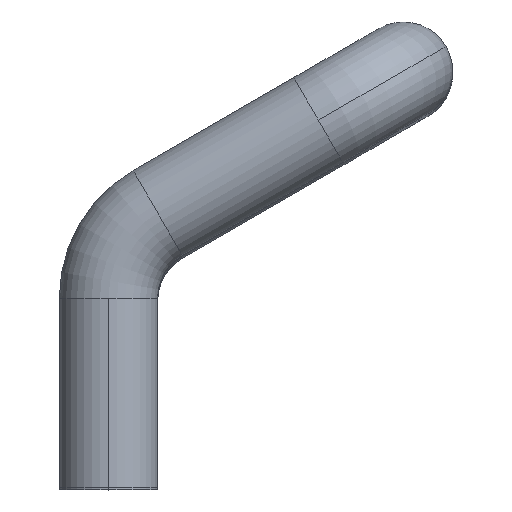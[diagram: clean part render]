
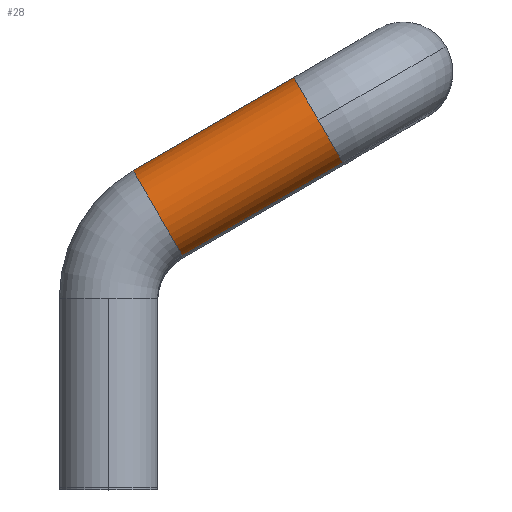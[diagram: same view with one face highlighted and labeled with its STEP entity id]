
A CAD part, top view. The second image highlights one B-rep face of the part: STEP entity #28.
In plain terms, the highlighted cylindrical face has radius 5 mm (diameter 10 mm), a partial arc.
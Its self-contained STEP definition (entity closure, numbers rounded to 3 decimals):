
#27 = CARTESIAN_POINT ( 'NONE',  ( 7.5, 23.557, 0. ) ) ;
#28 = ADVANCED_FACE ( 'NONE', ( #65 ), #346, .T. ) ;
#30 = VERTEX_POINT ( 'NONE', #88 ) ;
#32 = DIRECTION ( 'NONE',  ( 0.866, 0.5, 0. ) ) ;
#43 = CARTESIAN_POINT ( 'NONE',  ( 23.84, 32.99, 0. ) ) ;
#55 = CARTESIAN_POINT ( 'NONE',  ( 2.5, 32.217, 0. ) ) ;
#65 = FACE_OUTER_BOUND ( 'NONE', #602, .T. ) ;
#66 = DIRECTION ( 'NONE',  ( 0., 0., 1. ) ) ;
#88 = CARTESIAN_POINT ( 'NONE',  ( 18.84, 41.651, 0. ) ) ;
#98 = CIRCLE ( 'NONE', #584, 5. ) ;
#170 = CIRCLE ( 'NONE', #695, 5. ) ;
#181 = CARTESIAN_POINT ( 'NONE',  ( 7.5, 23.557, 0. ) ) ;
#185 = CIRCLE ( 'NONE', #509, 5. ) ;
#191 = VERTEX_POINT ( 'NONE', #43 ) ;
#269 = DIRECTION ( 'NONE',  ( 0.866, 0.5, 0. ) ) ;
#301 = CARTESIAN_POINT ( 'NONE',  ( 2.5, 32.217, 0. ) ) ;
#313 = EDGE_CURVE ( 'NONE', #545, #372, #185, .T. ) ;
#346 = CYLINDRICAL_SURFACE ( 'NONE', #624, 5. ) ;
#367 = ORIENTED_EDGE ( 'NONE', *, *, #878, .F. ) ;
#372 = VERTEX_POINT ( 'NONE', #27 ) ;
#389 = LINE ( 'NONE', #301, #587 ) ;
#403 = DIRECTION ( 'NONE',  ( 0.866, 0.5, 0. ) ) ;
#437 = EDGE_CURVE ( 'NONE', #814, #191, #170, .T. ) ;
#444 = ORIENTED_EDGE ( 'NONE', *, *, #588, .F. ) ;
#454 = VECTOR ( 'NONE', #403, 1000. ) ;
#461 = ORIENTED_EDGE ( 'NONE', *, *, #313, .T. ) ;
#498 = EDGE_CURVE ( 'NONE', #372, #191, #540, .T. ) ;
#509 = AXIS2_PLACEMENT_3D ( 'NONE', #558, #770, #66 ) ;
#518 = DIRECTION ( 'NONE',  ( 0.866, 0.5, 0. ) ) ;
#538 = DIRECTION ( 'NONE',  ( 0.866, 0.5, 0. ) ) ;
#540 = LINE ( 'NONE', #181, #454 ) ;
#545 = VERTEX_POINT ( 'NONE', #55 ) ;
#558 = CARTESIAN_POINT ( 'NONE',  ( 5., 27.887, 0. ) ) ;
#581 = CARTESIAN_POINT ( 'NONE',  ( 21.34, 37.321, 0. ) ) ;
#584 = AXIS2_PLACEMENT_3D ( 'NONE', #619, #269, #894 ) ;
#587 = VECTOR ( 'NONE', #538, 1000. ) ;
#588 = EDGE_CURVE ( 'NONE', #30, #814, #98, .T. ) ;
#602 = EDGE_LOOP ( 'NONE', ( #461, #872, #887, #444, #367 ) ) ;
#619 = CARTESIAN_POINT ( 'NONE',  ( 21.34, 37.321, 0. ) ) ;
#624 = AXIS2_PLACEMENT_3D ( 'NONE', #906, #518, #865 ) ;
#695 = AXIS2_PLACEMENT_3D ( 'NONE', #581, #32, #800 ) ;
#737 = CARTESIAN_POINT ( 'NONE',  ( 21.34, 37.321, 5. ) ) ;
#770 = DIRECTION ( 'NONE',  ( 0.866, 0.5, 0. ) ) ;
#800 = DIRECTION ( 'NONE',  ( 0., 0., 1. ) ) ;
#814 = VERTEX_POINT ( 'NONE', #737 ) ;
#865 = DIRECTION ( 'NONE',  ( -0.5, 0.866, 0. ) ) ;
#872 = ORIENTED_EDGE ( 'NONE', *, *, #498, .T. ) ;
#878 = EDGE_CURVE ( 'NONE', #545, #30, #389, .T. ) ;
#887 = ORIENTED_EDGE ( 'NONE', *, *, #437, .F. ) ;
#894 = DIRECTION ( 'NONE',  ( 0., 0., 1. ) ) ;
#906 = CARTESIAN_POINT ( 'NONE',  ( 5., 27.887, 0. ) ) ;
